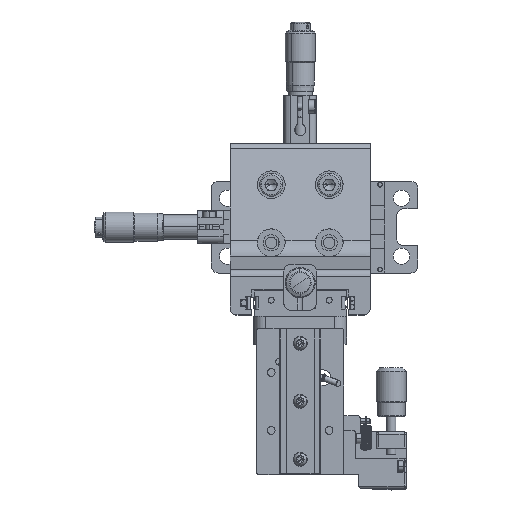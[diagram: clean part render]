
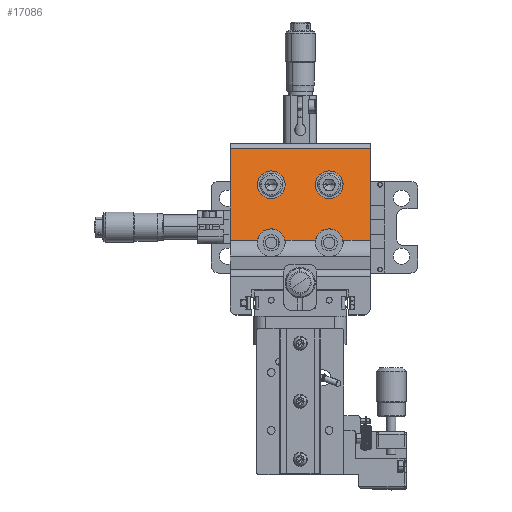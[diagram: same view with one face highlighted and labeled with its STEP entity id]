
A CAD part, top view. The second image highlights one B-rep face of the part: STEP entity #17086.
In plain terms, the highlighted planar face has unit normal (0, 0.259, 0.966).
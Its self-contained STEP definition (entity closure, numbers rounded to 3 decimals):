
#1132 = ORIENTED_EDGE ( 'NONE', *, *, #61020, .T. ) ;
#1239 = CARTESIAN_POINT ( 'NONE',  ( 24.05, -5.673, 43.816 ) ) ;
#1243 = VERTEX_POINT ( 'NONE', #3823 ) ;
#1990 = VECTOR ( 'NONE', #65994, 1000. ) ;
#2965 = ORIENTED_EDGE ( 'NONE', *, *, #62995, .T. ) ;
#3192 = CARTESIAN_POINT ( 'NONE',  ( 24.05, -5.673, 43.816 ) ) ;
#3215 = ORIENTED_EDGE ( 'NONE', *, *, #62655, .F. ) ;
#3427 = EDGE_LOOP ( 'NONE', ( #7233, #26197, #55791, #16648, #64010, #3215, #1132, #15099 ) ) ;
#3823 = CARTESIAN_POINT ( 'NONE',  ( -36.45, -5.673, 43.816 ) ) ;
#6535 = CARTESIAN_POINT ( 'NONE',  ( 0.3, 18.2, 37.419 ) ) ;
#6999 = DIRECTION ( 'NONE',  ( 1., 0., 0. ) ) ;
#7190 = VECTOR ( 'NONE', #6999, 1000. ) ;
#7233 = ORIENTED_EDGE ( 'NONE', *, *, #42601, .T. ) ;
#7583 = EDGE_CURVE ( 'NONE', #45376, #45644, #30737, .T. ) ;
#7660 = CARTESIAN_POINT ( 'NONE',  ( 10.583, 2.741, 41.562 ) ) ;
#7887 = VECTOR ( 'NONE', #63798, 1000. ) ;
#8020 = CARTESIAN_POINT ( 'NONE',  ( -12.7, 18.2, 37.419 ) ) ;
#9444 = CARTESIAN_POINT ( 'NONE',  ( -12.7, 18.2, 37.419 ) ) ;
#11823 = CARTESIAN_POINT ( 'NONE',  ( 0.3, 6.2, 40.635 ) ) ;
#11956 = VERTEX_POINT ( 'NONE', #62880 ) ;
#12569 = CARTESIAN_POINT ( 'NONE',  ( 2.017, 2.741, 41.562 ) ) ;
#13164 = EDGE_CURVE ( 'NONE', #14821, #51317, #29421, .T. ) ;
#13846 = CARTESIAN_POINT ( 'NONE',  ( 12.3, 18.2, 37.419 ) ) ;
#13985 = CARTESIAN_POINT ( 'NONE',  ( -22.983, 2.741, 41.562 ) ) ;
#14314 = VERTEX_POINT ( 'NONE', #9444 ) ;
#14821 = VERTEX_POINT ( 'NONE', #19546 ) ;
#14857 = EDGE_CURVE ( 'NONE', #66068, #24432, #27861, .T. ) ;
#15099 = ORIENTED_EDGE ( 'NONE', *, *, #14857, .T. ) ;
#16648 = ORIENTED_EDGE ( 'NONE', *, *, #43683, .T. ) ;
#17042 = CARTESIAN_POINT ( 'NONE',  ( 12.193, -5.673, 43.816 ) ) ;
#17086 = ADVANCED_FACE ( 'NONE', ( #56800, #41585, #32820 ), #52243, .F. ) ;
#17259 = CARTESIAN_POINT ( 'NONE',  ( 12.3, 18.2, 37.419 ) ) ;
#18282 = CARTESIAN_POINT ( 'NONE',  ( -12.7, 30.2, 34.204 ) ) ;
#18756 = VECTOR ( 'NONE', #32695, 1000. ) ;
#19546 = CARTESIAN_POINT ( 'NONE',  ( 24.05, 33.776, 33.246 ) ) ;
#19777 = AXIS2_PLACEMENT_3D ( 'NONE', #51786, #61676, #56984 ) ;
#20395 = EDGE_LOOP ( 'NONE', ( #41020, #22412 ) ) ;
#22058 =( BOUNDED_CURVE ( )  B_SPLINE_CURVE ( 3, ( #38252, #57960, #11823, #47622 ),
 .UNSPECIFIED., .F., .F. ) 
 B_SPLINE_CURVE_WITH_KNOTS ( ( 4, 4 ),
 ( 4.712, 7.854 ),
 .UNSPECIFIED. ) 
 CURVE ( )  GEOMETRIC_REPRESENTATION_ITEM ( )  RATIONAL_B_SPLINE_CURVE ( ( 1., 0.333, 0.333, 1. ) ) 
 REPRESENTATION_ITEM ( '' )  );
#22193 = VECTOR ( 'NONE', #62282, 1000. ) ;
#22362 = CARTESIAN_POINT ( 'NONE',  ( 24.05, -11.827, 45.465 ) ) ;
#22412 = ORIENTED_EDGE ( 'NONE', *, *, #63101, .T. ) ;
#23197 = CARTESIAN_POINT ( 'NONE',  ( -24.7, 18.2, 37.419 ) ) ;
#23433 = CARTESIAN_POINT ( 'NONE',  ( -24.7, 30.2, 34.204 ) ) ;
#24432 = VERTEX_POINT ( 'NONE', #37107 ) ;
#25498 = CARTESIAN_POINT ( 'NONE',  ( -36.45, -11.827, 45.465 ) ) ;
#25937 = LINE ( 'NONE', #22362, #18756 ) ;
#26197 = ORIENTED_EDGE ( 'NONE', *, *, #7583, .T. ) ;
#26491 = CARTESIAN_POINT ( 'NONE',  ( -36.45, 33.776, 33.246 ) ) ;
#26685 = CARTESIAN_POINT ( 'NONE',  ( 12.3, 30.2, 34.204 ) ) ;
#27111 = CARTESIAN_POINT ( 'NONE',  ( 0.3, 30.2, 34.204 ) ) ;
#27226 = VERTEX_POINT ( 'NONE', #13846 ) ;
#27348 = EDGE_CURVE ( 'NONE', #29992, #27226, #62309, .T. ) ;
#27647 = EDGE_CURVE ( 'NONE', #45644, #11956, #64748, .T. ) ;
#27861 =( BOUNDED_CURVE ( )  B_SPLINE_CURVE ( 3, ( #34826, #13985, #29450, #49335 ),
 .UNSPECIFIED., .F., .T. ) 
 B_SPLINE_CURVE_WITH_KNOTS ( ( 4, 4 ),
 ( 1.76, 4.523 ),
 .UNSPECIFIED. ) 
 CURVE ( )  GEOMETRIC_REPRESENTATION_ITEM ( )  RATIONAL_B_SPLINE_CURVE ( ( 1., 0.459, 0.459, 1. ) ) 
 REPRESENTATION_ITEM ( '' )  );
#29421 = LINE ( 'NONE', #26491, #22193 ) ;
#29438 = ORIENTED_EDGE ( 'NONE', *, *, #44358, .T. ) ;
#29450 = CARTESIAN_POINT ( 'NONE',  ( -14.417, 2.741, 41.562 ) ) ;
#29781 = CARTESIAN_POINT ( 'NONE',  ( -24.593, -5.673, 43.816 ) ) ;
#29992 = VERTEX_POINT ( 'NONE', #38065 ) ;
#30737 =( BOUNDED_CURVE ( )  B_SPLINE_CURVE ( 3, ( #48131, #12569, #7660, #17042 ),
 .UNSPECIFIED., .F., .T. ) 
 B_SPLINE_CURVE_WITH_KNOTS ( ( 4, 4 ),
 ( 1.76, 4.523 ),
 .UNSPECIFIED. ) 
 CURVE ( )  GEOMETRIC_REPRESENTATION_ITEM ( )  RATIONAL_B_SPLINE_CURVE ( ( 1., 0.459, 0.459, 1. ) ) 
 REPRESENTATION_ITEM ( '' )  );
#32457 = CARTESIAN_POINT ( 'NONE',  ( -24.7, 6.2, 40.635 ) ) ;
#32663 = CARTESIAN_POINT ( 'NONE',  ( -24.7, 18.2, 37.419 ) ) ;
#32695 = DIRECTION ( 'NONE',  ( 0., 0.966, -0.259 ) ) ;
#32820 = FACE_OUTER_BOUND ( 'NONE', #3427, .T. ) ;
#33802 = DIRECTION ( 'NONE',  ( 1., 0., 0. ) ) ;
#34826 = CARTESIAN_POINT ( 'NONE',  ( -24.593, -5.673, 43.816 ) ) ;
#36887 =( BOUNDED_CURVE ( )  B_SPLINE_CURVE ( 3, ( #62851, #63286, #32457, #32663 ),
 .UNSPECIFIED., .F., .T. ) 
 B_SPLINE_CURVE_WITH_KNOTS ( ( 4, 4 ),
 ( 4.712, 7.854 ),
 .UNSPECIFIED. ) 
 CURVE ( )  GEOMETRIC_REPRESENTATION_ITEM ( )  RATIONAL_B_SPLINE_CURVE ( ( 1., 0.333, 0.333, 1. ) ) 
 REPRESENTATION_ITEM ( '' )  );
#37107 = CARTESIAN_POINT ( 'NONE',  ( -12.807, -5.673, 43.816 ) ) ;
#38065 = CARTESIAN_POINT ( 'NONE',  ( 0.3, 18.2, 37.419 ) ) ;
#38252 = CARTESIAN_POINT ( 'NONE',  ( 12.3, 18.2, 37.419 ) ) ;
#41020 = ORIENTED_EDGE ( 'NONE', *, *, #27348, .T. ) ;
#41585 = FACE_BOUND ( 'NONE', #45487, .T. ) ;
#41717 = CARTESIAN_POINT ( 'NONE',  ( -24.7, 18.2, 37.419 ) ) ;
#42601 = EDGE_CURVE ( 'NONE', #24432, #45376, #51965, .T. ) ;
#43683 = EDGE_CURVE ( 'NONE', #11956, #14821, #25937, .T. ) ;
#44358 = EDGE_CURVE ( 'NONE', #54455, #14314, #56949, .T. ) ;
#45376 = VERTEX_POINT ( 'NONE', #60787 ) ;
#45487 = EDGE_LOOP ( 'NONE', ( #29438, #2965 ) ) ;
#45644 = VERTEX_POINT ( 'NONE', #47811 ) ;
#47622 = CARTESIAN_POINT ( 'NONE',  ( 0.3, 18.2, 37.419 ) ) ;
#47811 = CARTESIAN_POINT ( 'NONE',  ( 12.193, -5.673, 43.816 ) ) ;
#48131 = CARTESIAN_POINT ( 'NONE',  ( 0.407, -5.673, 43.816 ) ) ;
#49335 = CARTESIAN_POINT ( 'NONE',  ( -12.807, -5.673, 43.816 ) ) ;
#51317 = VERTEX_POINT ( 'NONE', #51611 ) ;
#51611 = CARTESIAN_POINT ( 'NONE',  ( -36.45, 33.776, 33.246 ) ) ;
#51786 = CARTESIAN_POINT ( 'NONE',  ( -36.45, -11.827, 45.465 ) ) ;
#51965 = LINE ( 'NONE', #1239, #7190 ) ;
#52243 = PLANE ( 'NONE',  #19777 ) ;
#53348 = VECTOR ( 'NONE', #33802, 1000. ) ;
#54455 = VERTEX_POINT ( 'NONE', #41717 ) ;
#55791 = ORIENTED_EDGE ( 'NONE', *, *, #27647, .T. ) ;
#56800 = FACE_BOUND ( 'NONE', #20395, .T. ) ;
#56949 =( BOUNDED_CURVE ( )  B_SPLINE_CURVE ( 3, ( #23197, #23433, #18282, #8020 ),
 .UNSPECIFIED., .F., .T. ) 
 B_SPLINE_CURVE_WITH_KNOTS ( ( 4, 4 ),
 ( 1.571, 4.712 ),
 .UNSPECIFIED. ) 
 CURVE ( )  GEOMETRIC_REPRESENTATION_ITEM ( )  RATIONAL_B_SPLINE_CURVE ( ( 1., 0.333, 0.333, 1. ) ) 
 REPRESENTATION_ITEM ( '' )  );
#56984 = DIRECTION ( 'NONE',  ( 0., -0.966, 0.259 ) ) ;
#57960 = CARTESIAN_POINT ( 'NONE',  ( 12.3, 6.2, 40.635 ) ) ;
#60787 = CARTESIAN_POINT ( 'NONE',  ( 0.407, -5.673, 43.816 ) ) ;
#61020 = EDGE_CURVE ( 'NONE', #1243, #66068, #66100, .T. ) ;
#61185 = LINE ( 'NONE', #25498, #1990 ) ;
#61676 = DIRECTION ( 'NONE',  ( 0., -0.259, -0.966 ) ) ;
#62282 = DIRECTION ( 'NONE',  ( -1., 0., 0. ) ) ;
#62309 =( BOUNDED_CURVE ( )  B_SPLINE_CURVE ( 3, ( #6535, #27111, #26685, #17259 ),
 .UNSPECIFIED., .F., .T. ) 
 B_SPLINE_CURVE_WITH_KNOTS ( ( 4, 4 ),
 ( 1.571, 4.712 ),
 .UNSPECIFIED. ) 
 CURVE ( )  GEOMETRIC_REPRESENTATION_ITEM ( )  RATIONAL_B_SPLINE_CURVE ( ( 1., 0.333, 0.333, 1. ) ) 
 REPRESENTATION_ITEM ( '' )  );
#62655 = EDGE_CURVE ( 'NONE', #1243, #51317, #61185, .T. ) ;
#62851 = CARTESIAN_POINT ( 'NONE',  ( -12.7, 18.2, 37.419 ) ) ;
#62880 = CARTESIAN_POINT ( 'NONE',  ( 24.05, -5.673, 43.816 ) ) ;
#62995 = EDGE_CURVE ( 'NONE', #14314, #54455, #36887, .T. ) ;
#63101 = EDGE_CURVE ( 'NONE', #27226, #29992, #22058, .T. ) ;
#63286 = CARTESIAN_POINT ( 'NONE',  ( -12.7, 6.2, 40.635 ) ) ;
#63798 = DIRECTION ( 'NONE',  ( 1., 0., 0. ) ) ;
#64010 = ORIENTED_EDGE ( 'NONE', *, *, #13164, .T. ) ;
#64413 = CARTESIAN_POINT ( 'NONE',  ( 24.05, -5.673, 43.816 ) ) ;
#64748 = LINE ( 'NONE', #3192, #7887 ) ;
#65994 = DIRECTION ( 'NONE',  ( 0., 0.966, -0.259 ) ) ;
#66068 = VERTEX_POINT ( 'NONE', #29781 ) ;
#66100 = LINE ( 'NONE', #64413, #53348 ) ;
